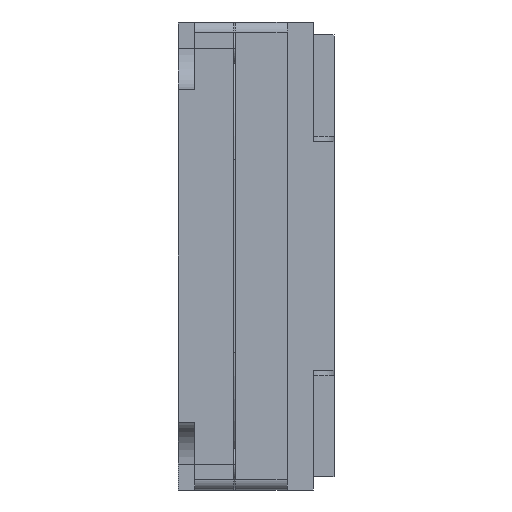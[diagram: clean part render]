
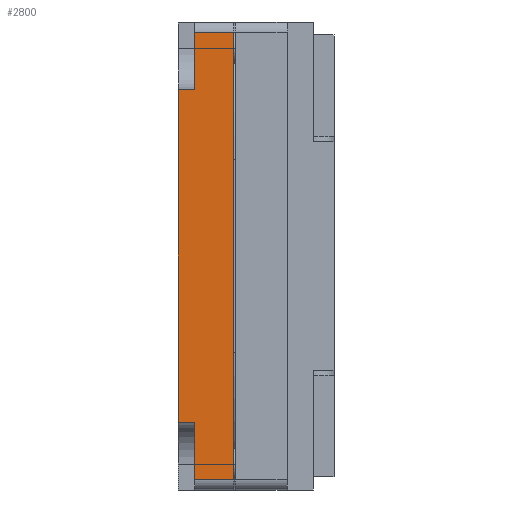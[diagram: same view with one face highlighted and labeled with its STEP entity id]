
A CAD part, left-side view. The second image highlights one B-rep face of the part: STEP entity #2800.
In plain terms, the highlighted planar face has unit normal (-1, 0, 0).
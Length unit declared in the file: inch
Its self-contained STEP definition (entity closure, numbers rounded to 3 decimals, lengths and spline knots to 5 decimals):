
#56 = CARTESIAN_POINT ( 'NONE',  ( -0.31496, 0.10551, 0.16929 ) ) ;
#216 = EDGE_CURVE ( 'NONE', #17216, #3523, #21311, .T. ) ;
#864 = CARTESIAN_POINT ( 'NONE',  ( -0.31496, 0.10551, -0.16929 ) ) ;
#1353 = DIRECTION ( 'NONE',  ( 0., 1., 0. ) ) ;
#1450 = CARTESIAN_POINT ( 'NONE',  ( -0.31496, 0.11811, -0.12598 ) ) ;
#2126 = CARTESIAN_POINT ( 'NONE',  ( -0.31496, 0.10551, -0.12598 ) ) ;
#2363 = VERTEX_POINT ( 'NONE', #7254 ) ;
#2408 = DIRECTION ( 'NONE',  ( 0., 0., -1. ) ) ;
#2800 = ADVANCED_FACE ( 'NONE', ( #27962 ), #30525, .T. ) ;
#3333 = ORIENTED_EDGE ( 'NONE', *, *, #22787, .T. ) ;
#3382 = DIRECTION ( 'NONE',  ( 0., -1., 0. ) ) ;
#3523 = VERTEX_POINT ( 'NONE', #12949 ) ;
#4878 = LINE ( 'NONE', #2126, #17067 ) ;
#6105 = ORIENTED_EDGE ( 'NONE', *, *, #9624, .T. ) ;
#6127 = DIRECTION ( 'NONE',  ( 0., 0., 1. ) ) ;
#6318 = VECTOR ( 'NONE', #24934, 39.37008 ) ;
#6542 = CARTESIAN_POINT ( 'NONE',  ( -0.31496, 0.10551, 0.12598 ) ) ;
#7254 = CARTESIAN_POINT ( 'NONE',  ( -0.31496, 0.11811, 0.12598 ) ) ;
#7663 = EDGE_LOOP ( 'NONE', ( #6105, #3333, #31033, #12331, #15971, #17431, #25255, #22402 ) ) ;
#7983 = DIRECTION ( 'NONE',  ( 0., 0., 1. ) ) ;
#9136 = VECTOR ( 'NONE', #1353, 39.37008 ) ;
#9546 = EDGE_CURVE ( 'NONE', #22300, #22043, #23967, .T. ) ;
#9624 = EDGE_CURVE ( 'NONE', #22043, #19697, #21877, .T. ) ;
#9856 = LINE ( 'NONE', #21670, #10204 ) ;
#9943 = EDGE_CURVE ( 'NONE', #13505, #17216, #9856, .T. ) ;
#10204 = VECTOR ( 'NONE', #12289, 39.37008 ) ;
#12289 = DIRECTION ( 'NONE',  ( 0., 0., -1. ) ) ;
#12331 = ORIENTED_EDGE ( 'NONE', *, *, #15277, .F. ) ;
#12949 = CARTESIAN_POINT ( 'NONE',  ( -0.31496, 0.07598, -0.16929 ) ) ;
#13002 = LINE ( 'NONE', #15253, #23880 ) ;
#13252 = CARTESIAN_POINT ( 'NONE',  ( -0.31496, 0.10551, -0.16929 ) ) ;
#13505 = VERTEX_POINT ( 'NONE', #20017 ) ;
#14601 = LINE ( 'NONE', #20094, #6318 ) ;
#14750 = DIRECTION ( 'NONE',  ( 0., 0., -1. ) ) ;
#14868 = LINE ( 'NONE', #27622, #28393 ) ;
#15253 = CARTESIAN_POINT ( 'NONE',  ( -0.31496, 0.07598, -0.16929 ) ) ;
#15277 = EDGE_CURVE ( 'NONE', #13505, #18089, #4878, .T. ) ;
#15864 = VECTOR ( 'NONE', #14750, 39.37008 ) ;
#15971 = ORIENTED_EDGE ( 'NONE', *, *, #9943, .T. ) ;
#17067 = VECTOR ( 'NONE', #26845, 39.37008 ) ;
#17216 = VERTEX_POINT ( 'NONE', #864 ) ;
#17431 = ORIENTED_EDGE ( 'NONE', *, *, #216, .T. ) ;
#18089 = VERTEX_POINT ( 'NONE', #1450 ) ;
#18269 = CARTESIAN_POINT ( 'NONE',  ( -0.31496, 0.0878, -0.17717 ) ) ;
#19296 = VECTOR ( 'NONE', #3382, 39.37008 ) ;
#19697 = VERTEX_POINT ( 'NONE', #6542 ) ;
#20017 = CARTESIAN_POINT ( 'NONE',  ( -0.31496, 0.10551, -0.12598 ) ) ;
#20094 = CARTESIAN_POINT ( 'NONE',  ( -0.31496, 0.10551, 0.12598 ) ) ;
#21311 = LINE ( 'NONE', #13252, #19296 ) ;
#21670 = CARTESIAN_POINT ( 'NONE',  ( -0.31496, 0.10551, -0.12598 ) ) ;
#21877 = LINE ( 'NONE', #56, #15864 ) ;
#22043 = VERTEX_POINT ( 'NONE', #26824 ) ;
#22300 = VERTEX_POINT ( 'NONE', #23416 ) ;
#22402 = ORIENTED_EDGE ( 'NONE', *, *, #9546, .T. ) ;
#22787 = EDGE_CURVE ( 'NONE', #19697, #2363, #14601, .T. ) ;
#23416 = CARTESIAN_POINT ( 'NONE',  ( -0.31496, 0.07598, 0.16929 ) ) ;
#23774 = EDGE_CURVE ( 'NONE', #3523, #22300, #13002, .T. ) ;
#23880 = VECTOR ( 'NONE', #7983, 39.37008 ) ;
#23967 = LINE ( 'NONE', #28970, #9136 ) ;
#24934 = DIRECTION ( 'NONE',  ( 0., 1., 0. ) ) ;
#25255 = ORIENTED_EDGE ( 'NONE', *, *, #23774, .T. ) ;
#26824 = CARTESIAN_POINT ( 'NONE',  ( -0.31496, 0.10551, 0.16929 ) ) ;
#26845 = DIRECTION ( 'NONE',  ( 0., 1., 0. ) ) ;
#27622 = CARTESIAN_POINT ( 'NONE',  ( -0.31496, 0.11811, 0.12598 ) ) ;
#27962 = FACE_OUTER_BOUND ( 'NONE', #7663, .T. ) ;
#28393 = VECTOR ( 'NONE', #2408, 39.37008 ) ;
#28970 = CARTESIAN_POINT ( 'NONE',  ( -0.31496, 0.07598, 0.16929 ) ) ;
#29709 = AXIS2_PLACEMENT_3D ( 'NONE', #18269, #30196, #6127 ) ;
#30078 = EDGE_CURVE ( 'NONE', #2363, #18089, #14868, .T. ) ;
#30196 = DIRECTION ( 'NONE',  ( -1., 0., 0. ) ) ;
#30525 = PLANE ( 'NONE',  #29709 ) ;
#31033 = ORIENTED_EDGE ( 'NONE', *, *, #30078, .T. ) ;
